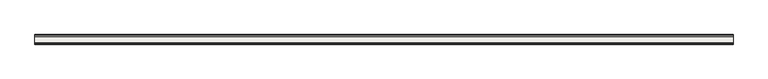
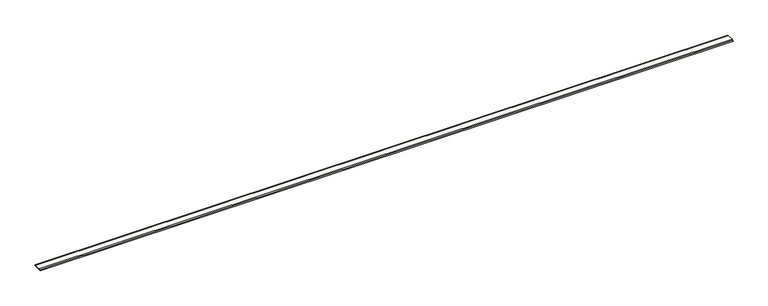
"""IFC4 building model written with IfcOpenShell, lengths in millimetres: slab geometry, ROSA GRES_245 CM_Colocación en plano : Rejilla 245 CM_Tao_Beige_Anti-Slip."""

from ifc_helpers import new_model, si_unit, point, frame, frame_2d, origin, place, context, project, spatial, polyline, circle_curve, trimmed, segment, composite_curve, outline, extrude, source, transform, mapped, element, save


def slab_4138cf42(model_context):
    return source(origin(), model_context, "Body", "SweptSolid", [
        extrude(outline(composite_curve([segment(polyline([(242.0848264, -3.0209998), (248.9615625, -25.0413492), (0.0, -25.0413492), (6.8503894, -3.0704499)]), True, "CONTINUOUS"), segment(trimmed(circle_curve(frame_2d((86.2847076, -720.2412375)), 721.556477), [point((6.8503894, -3.0704499))], [point((42.7380732, 0.0))], False, "CARTESIAN"), True, "CONTINUOUS"), segment(polyline([(42.7380732, 0.0), (206.6448784, 0.0)]), True, "CONTINUOUS"), segment(trimmed(circle_curve(frame_2d((163.0982439, -720.2412375)), 721.556477), [point((206.6448784, 0.0))], [point((242.0848264, -3.0209998))], False, "CARTESIAN"), True, "CONTINUOUS")], self_intersect=False)), frame((0.0, 0.0, 0.0), z_axis=(1.0, 0.0, 0.0), x_axis=(0.0, 1.0, 0.0)), (0.0, 0.0, 1.0), 18000.0),
    ])


if __name__ == "__main__":
    model = new_model("IFC4")
    model_context = context("Model", 3, world=origin())
    ifc_project = project(units=[si_unit("LENGTHUNIT", "METRE", prefix="MILLI")], contexts=[model_context])
    site = spatial("IfcSite", under=ifc_project)
    building = spatial("IfcBuilding", under=site)
    placement = place(None, origin())
    slab_shape = slab_4138cf42(model_context)
    element("IfcSlab", 1, ObjectType="ROSA GRES_245 CM_Colocación en plano : Rejilla 245 CM_Tao_Beige_Anti-Slip", at=placement, inside=building, context=model_context, shape_type="MappedRepresentation", body=[
        mapped(slab_shape, transform((0.0, 0.0, 0.0), x_axis=(1.0, 0.0, 0.0), y_axis=(0.0, 1.0, 0.0), z_axis=(0.0, 0.0, 1.0))),
    ])
    save(model, "model.ifc")
